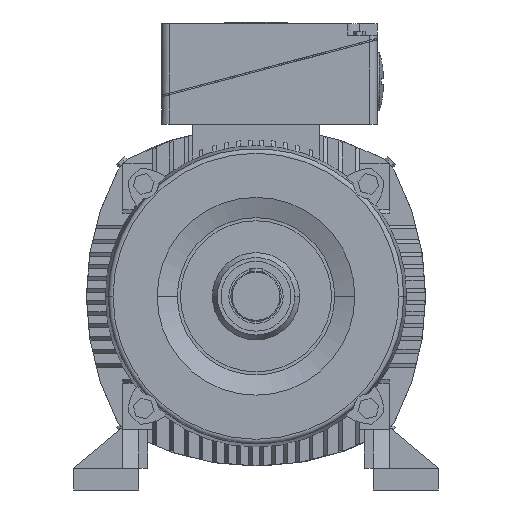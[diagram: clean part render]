
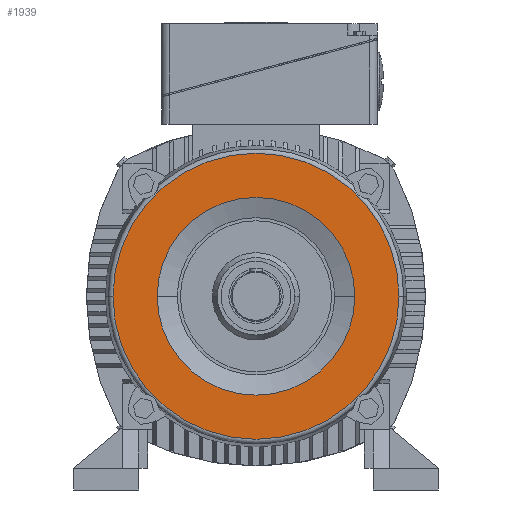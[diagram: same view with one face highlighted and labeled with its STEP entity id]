
A CAD part, front view. The second image highlights one B-rep face of the part: STEP entity #1939.
In plain terms, the highlighted planar face has unit normal (0, -1, 0).
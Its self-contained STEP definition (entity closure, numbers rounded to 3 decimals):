
#1939=ADVANCED_FACE('',(#4047,#4048),#4049,.T.);
#4047=FACE_BOUND('',#6321,.T.);
#4048=FACE_OUTER_BOUND('',#6322,.T.);
#4049=PLANE('',#6323);
#6321=EDGE_LOOP('',(#12613,#12614));
#6322=EDGE_LOOP('',(#12615,#12616));
#6323=AXIS2_PLACEMENT_3D('',#12617,#12618,#12619);
#12613=ORIENTED_EDGE('',*,*,#14112,.T.);
#12614=ORIENTED_EDGE('',*,*,#16355,.T.);
#12615=ORIENTED_EDGE('',*,*,#14162,.T.);
#12616=ORIENTED_EDGE('',*,*,#16221,.T.);
#12617=CARTESIAN_POINT('',(92.314,-52.5,0.0));
#12618=DIRECTION('',(0.,-1.0,0.0));
#12619=DIRECTION('',(1.0,0.,0.0));
#14112=EDGE_CURVE('',#17014,#17011,#17015,.T.);
#14162=EDGE_CURVE('',#17091,#17097,#17099,.T.);
#16221=EDGE_CURVE('',#17097,#17091,#20178,.T.);
#16355=EDGE_CURVE('',#17011,#17014,#20365,.T.);
#17011=VERTEX_POINT('',#21550);
#17014=VERTEX_POINT('',#21554);
#17015=CIRCLE('',#21555,127.601);
#17091=VERTEX_POINT('',#21756);
#17097=VERTEX_POINT('',#21812);
#17099=CIRCLE('',#21814,184.628);
#20178=CIRCLE('',#31570,184.628);
#20365=CIRCLE('',#31884,127.601);
#21550=CARTESIAN_POINT('',(127.601,-52.5,0.));
#21554=CARTESIAN_POINT('',(-127.601,-52.5,0.));
#21555=AXIS2_PLACEMENT_3D('',#33345,#33346,#33347);
#21756=CARTESIAN_POINT('',(184.628,-52.5,0.0));
#21812=CARTESIAN_POINT('',(-184.628,-52.5,0.));
#21814=AXIS2_PLACEMENT_3D('',#33411,#33412,#33413);
#31570=AXIS2_PLACEMENT_3D('',#35194,#35195,#35196);
#31884=AXIS2_PLACEMENT_3D('',#35376,#35377,#35378);
#33345=CARTESIAN_POINT('',(0.0,-52.5,0.0));
#33346=DIRECTION('',(0.,1.0,0.0));
#33347=DIRECTION('',(1.0,0.,0.0));
#33411=CARTESIAN_POINT('',(0.0,-52.5,0.0));
#33412=DIRECTION('',(0.0,-1.0,0.0));
#33413=DIRECTION('',(1.0,0.0,0.0));
#35194=CARTESIAN_POINT('',(0.0,-52.5,0.0));
#35195=DIRECTION('',(0.0,-1.0,0.0));
#35196=DIRECTION('',(1.0,0.0,0.0));
#35376=CARTESIAN_POINT('',(0.0,-52.5,0.0));
#35377=DIRECTION('',(0.,1.0,0.0));
#35378=DIRECTION('',(1.0,0.,0.0));
